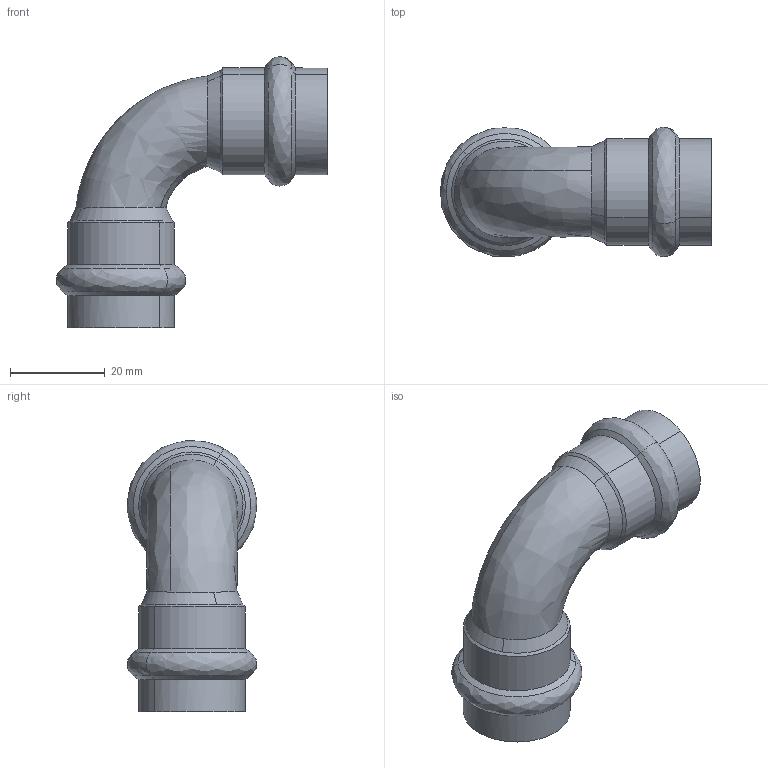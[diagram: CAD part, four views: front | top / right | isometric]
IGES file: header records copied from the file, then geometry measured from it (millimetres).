
Start section: 3D InterOp IGES (Version 25 0 1), Spatial Corp. Copyright (c) 1999-2007.
Global section: file name: pim0004429.igs; native system: Spatial Corp.; preprocessor: 3D InterOp ACIS/IGES; author: Cad-Pim; organization: TransMagic, Inc.; date: 20150430.070540; units: millimetre
Bounding box: 57.08 x 27.36 x 57.18 mm (x, y, z)
Volume: 16698.5 mm3; surface area: 9129.6 mm2
Topology: 1 solids, 1 shells, 38 faces, 98 edges, 64 vertices
Faces by surface type: bspline 14, cylinder 12, cone 12
